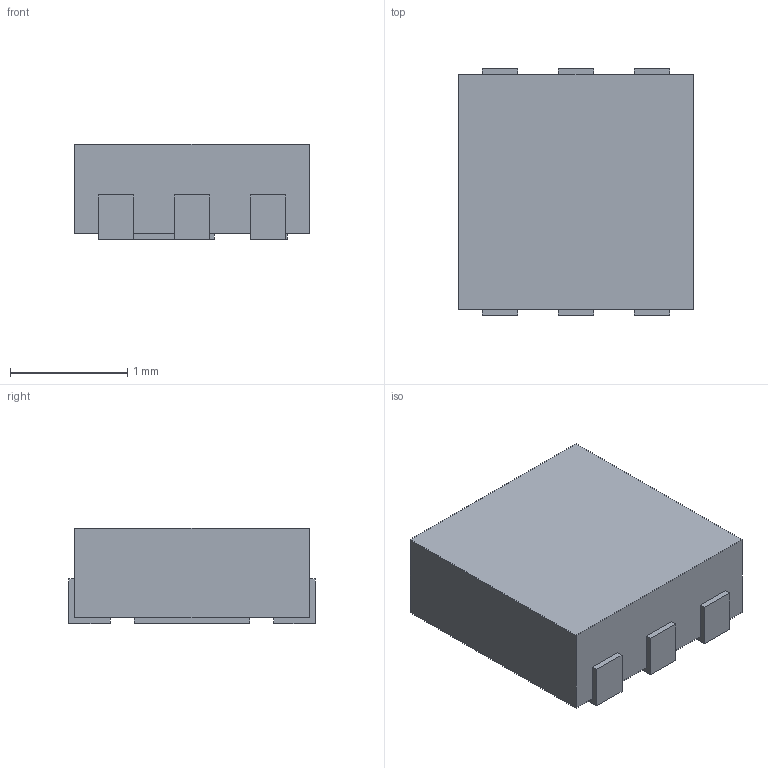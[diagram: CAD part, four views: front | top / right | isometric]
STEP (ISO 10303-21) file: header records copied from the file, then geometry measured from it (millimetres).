
FILE_DESCRIPTION( ( '' ), ' ' );
FILE_NAME( '/vol/tmp/translate-212586858716674735/59d04b7209b36a0f61ec3293.step', '2017-10-01T01:57:06', ( '' ), ( '' ), ' ', ' ', ' ' );
FILE_SCHEMA( ( 'AUTOMOTIVE_DESIGN { 1 0 10303 214 1 1 1 1 }' ) );
Length unit declared in the file: metre
Products named in the file (9): Open CASCADE STEP translator 6.8 1
Bounding box: 2.01 x 2.11 x 0.81 mm (x, y, z)
Volume: 3.2 mm3; surface area: 20 mm2
Topology: 9 solids, 9 shells, 66 faces, 144 edges, 96 vertices
Faces by surface type: plane 66
Entity records: 3112 total; most frequent: CARTESIAN_POINT 315, DIRECTION 294, ORIENTED_EDGE 288, STYLED_ITEM 210, PRESENTATION_STYLE_ASSIGNMENT 210, COLOUR_RGB 210, EDGE_CURVE 144, CURVE_STYLE 144
